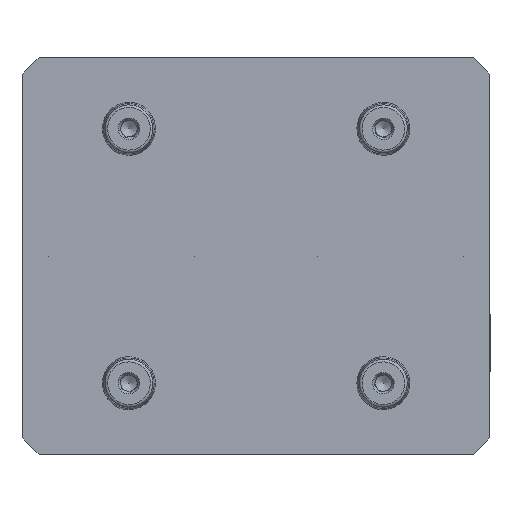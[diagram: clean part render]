
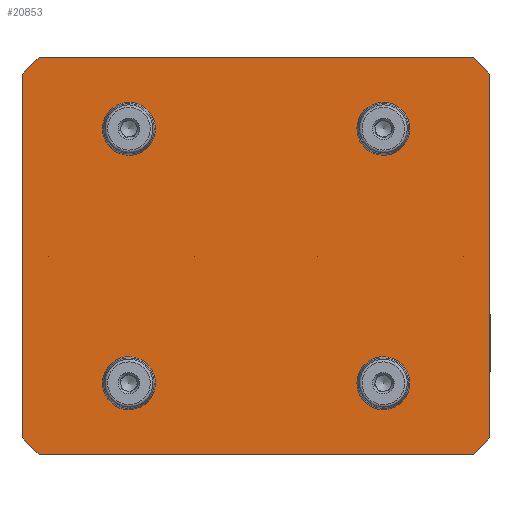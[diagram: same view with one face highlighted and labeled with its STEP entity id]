
A CAD part, front view. The second image highlights one B-rep face of the part: STEP entity #20853.
In plain terms, the highlighted planar face has unit normal (0, -1, 0).
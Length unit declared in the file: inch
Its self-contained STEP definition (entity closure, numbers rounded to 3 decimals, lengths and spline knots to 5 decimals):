
#448 = CARTESIAN_POINT ( 'NONE',  ( 3.22441, 0., -2.95276 ) ) ;
#538 = DIRECTION ( 'NONE',  ( 0., -1., 0. ) ) ;
#612 = CARTESIAN_POINT ( 'NONE',  ( 1.88976, 0., 1.88976 ) ) ;
#672 = CARTESIAN_POINT ( 'NONE',  ( 3.47441, 0., -2.95276 ) ) ;
#686 = EDGE_CURVE ( 'NONE', #4936, #4936, #19932, .T. ) ;
#717 = VERTEX_POINT ( 'NONE', #2476 ) ;
#870 = ORIENTED_EDGE ( 'NONE', *, *, #686, .F. ) ;
#1003 = VECTOR ( 'NONE', #19702, 39.37008 ) ;
#1270 = CARTESIAN_POINT ( 'NONE',  ( -3.47441, 0., -2.70276 ) ) ;
#1676 = ORIENTED_EDGE ( 'NONE', *, *, #6850, .F. ) ;
#1718 = LINE ( 'NONE', #8030, #1003 ) ;
#1774 = DIRECTION ( 'NONE',  ( 0., 0., -1. ) ) ;
#1877 = EDGE_CURVE ( 'NONE', #7570, #5845, #13963, .T. ) ;
#1937 = VECTOR ( 'NONE', #13572, 39.37008 ) ;
#2000 = VECTOR ( 'NONE', #15264, 39.37008 ) ;
#2476 = CARTESIAN_POINT ( 'NONE',  ( -1.88976, 0., 1.57441 ) ) ;
#2596 = DIRECTION ( 'NONE',  ( 1., 0., 0. ) ) ;
#2733 = DIRECTION ( 'NONE',  ( 0., 0., 1. ) ) ;
#3187 = LINE ( 'NONE', #1270, #10111 ) ;
#3204 = EDGE_CURVE ( 'NONE', #14330, #19286, #20002, .T. ) ;
#3586 = CARTESIAN_POINT ( 'NONE',  ( 3.47441, 0., 2.95276 ) ) ;
#3856 = VERTEX_POINT ( 'NONE', #13979 ) ;
#3971 = VERTEX_POINT ( 'NONE', #8815 ) ;
#4018 = EDGE_LOOP ( 'NONE', ( #1676 ) ) ;
#4185 = CIRCLE ( 'NONE', #11681, 0.31535 ) ;
#4385 = AXIS2_PLACEMENT_3D ( 'NONE', #612, #5761, #10423 ) ;
#4725 = CIRCLE ( 'NONE', #16919, 0.31535 ) ;
#4747 = ORIENTED_EDGE ( 'NONE', *, *, #5269, .F. ) ;
#4778 = EDGE_CURVE ( 'NONE', #19876, #20811, #20306, .T. ) ;
#4849 = DIRECTION ( 'NONE',  ( 0., 0., -1. ) ) ;
#4936 = VERTEX_POINT ( 'NONE', #9782 ) ;
#5080 = CIRCLE ( 'NONE', #9425, 0.31535 ) ;
#5269 = EDGE_CURVE ( 'NONE', #16245, #19286, #13659, .T. ) ;
#5337 = VECTOR ( 'NONE', #2733, 39.37008 ) ;
#5743 = ORIENTED_EDGE ( 'NONE', *, *, #1877, .F. ) ;
#5761 = DIRECTION ( 'NONE',  ( 0., -1., 0. ) ) ;
#5813 = ORIENTED_EDGE ( 'NONE', *, *, #6913, .F. ) ;
#5845 = VERTEX_POINT ( 'NONE', #10534 ) ;
#5970 = FACE_BOUND ( 'NONE', #11390, .T. ) ;
#6456 = EDGE_CURVE ( 'NONE', #7570, #20811, #3187, .T. ) ;
#6850 = EDGE_CURVE ( 'NONE', #717, #717, #5080, .T. ) ;
#6913 = EDGE_CURVE ( 'NONE', #3971, #3971, #4725, .T. ) ;
#7094 = CARTESIAN_POINT ( 'NONE',  ( -1.88976, 0., -2.20511 ) ) ;
#7151 = CARTESIAN_POINT ( 'NONE',  ( 3.47441, 0., 2.95276 ) ) ;
#7157 = ORIENTED_EDGE ( 'NONE', *, *, #20396, .T. ) ;
#7368 = VECTOR ( 'NONE', #19669, 39.37008 ) ;
#7570 = VERTEX_POINT ( 'NONE', #15447 ) ;
#8030 = CARTESIAN_POINT ( 'NONE',  ( -3.22441, 0., 2.95276 ) ) ;
#8286 = CARTESIAN_POINT ( 'NONE',  ( 1.88976, 0., -1.88976 ) ) ;
#8716 = EDGE_LOOP ( 'NONE', ( #870 ) ) ;
#8815 = CARTESIAN_POINT ( 'NONE',  ( 1.88976, 0., -2.20511 ) ) ;
#8982 = VERTEX_POINT ( 'NONE', #7094 ) ;
#9150 = CARTESIAN_POINT ( 'NONE',  ( 3.47441, 0., 2.70276 ) ) ;
#9247 = FACE_BOUND ( 'NONE', #4018, .T. ) ;
#9425 = AXIS2_PLACEMENT_3D ( 'NONE', #12924, #19335, #4849 ) ;
#9711 = EDGE_CURVE ( 'NONE', #14330, #3856, #19553, .T. ) ;
#9782 = CARTESIAN_POINT ( 'NONE',  ( 1.88976, 0., 1.57441 ) ) ;
#10111 = VECTOR ( 'NONE', #16091, 39.37008 ) ;
#10266 = EDGE_CURVE ( 'NONE', #16245, #5845, #1718, .T. ) ;
#10366 = CARTESIAN_POINT ( 'NONE',  ( 3.47441, 0., 2.70276 ) ) ;
#10423 = DIRECTION ( 'NONE',  ( 0., 0., -1. ) ) ;
#10534 = CARTESIAN_POINT ( 'NONE',  ( -3.47441, 0., 2.70276 ) ) ;
#10667 = DIRECTION ( 'NONE',  ( 0., 1., 0. ) ) ;
#10771 = DIRECTION ( 'NONE',  ( 0., 0., 1. ) ) ;
#10781 = CARTESIAN_POINT ( 'NONE',  ( -3.22441, 0., 2.95276 ) ) ;
#10852 = CARTESIAN_POINT ( 'NONE',  ( 3.22441, 0., -2.95276 ) ) ;
#10884 = FACE_OUTER_BOUND ( 'NONE', #19997, .T. ) ;
#11328 = CARTESIAN_POINT ( 'NONE',  ( -1.88976, 0., -1.88976 ) ) ;
#11390 = EDGE_LOOP ( 'NONE', ( #5813 ) ) ;
#11681 = AXIS2_PLACEMENT_3D ( 'NONE', #11328, #12925, #1774 ) ;
#11922 = ORIENTED_EDGE ( 'NONE', *, *, #9711, .F. ) ;
#12174 = CARTESIAN_POINT ( 'NONE',  ( 0., 0., 0. ) ) ;
#12279 = FACE_BOUND ( 'NONE', #8716, .T. ) ;
#12874 = LINE ( 'NONE', #10852, #14982 ) ;
#12924 = CARTESIAN_POINT ( 'NONE',  ( -1.88976, 0., 1.88976 ) ) ;
#12925 = DIRECTION ( 'NONE',  ( 0., -1., 0. ) ) ;
#13052 = CARTESIAN_POINT ( 'NONE',  ( -3.22441, 0., -2.95276 ) ) ;
#13236 = DIRECTION ( 'NONE',  ( 0., 0., -1. ) ) ;
#13304 = CARTESIAN_POINT ( 'NONE',  ( 3.22441, 0., 2.95276 ) ) ;
#13572 = DIRECTION ( 'NONE',  ( -1., 0., 0. ) ) ;
#13659 = LINE ( 'NONE', #7151, #14493 ) ;
#13704 = EDGE_CURVE ( 'NONE', #8982, #8982, #4185, .T. ) ;
#13963 = LINE ( 'NONE', #17247, #5337 ) ;
#13979 = CARTESIAN_POINT ( 'NONE',  ( 3.47441, 0., -2.70276 ) ) ;
#14057 = ORIENTED_EDGE ( 'NONE', *, *, #4778, .F. ) ;
#14330 = VERTEX_POINT ( 'NONE', #9150 ) ;
#14493 = VECTOR ( 'NONE', #2596, 39.37008 ) ;
#14741 = ORIENTED_EDGE ( 'NONE', *, *, #6456, .T. ) ;
#14982 = VECTOR ( 'NONE', #15923, 39.37008 ) ;
#15264 = DIRECTION ( 'NONE',  ( -0.707, 0., 0.707 ) ) ;
#15447 = CARTESIAN_POINT ( 'NONE',  ( -3.47441, 0., -2.70276 ) ) ;
#15923 = DIRECTION ( 'NONE',  ( 0.707, 0., 0.707 ) ) ;
#16091 = DIRECTION ( 'NONE',  ( 0.707, 0., -0.707 ) ) ;
#16245 = VERTEX_POINT ( 'NONE', #10781 ) ;
#16919 = AXIS2_PLACEMENT_3D ( 'NONE', #8286, #538, #13236 ) ;
#17051 = ORIENTED_EDGE ( 'NONE', *, *, #13704, .F. ) ;
#17247 = CARTESIAN_POINT ( 'NONE',  ( -3.47441, 0., 2.95276 ) ) ;
#18479 = FACE_BOUND ( 'NONE', #19687, .T. ) ;
#18602 = ORIENTED_EDGE ( 'NONE', *, *, #3204, .T. ) ;
#18700 = PLANE ( 'NONE',  #19709 ) ;
#19286 = VERTEX_POINT ( 'NONE', #13304 ) ;
#19335 = DIRECTION ( 'NONE',  ( 0., -1., 0. ) ) ;
#19553 = LINE ( 'NONE', #3586, #7368 ) ;
#19669 = DIRECTION ( 'NONE',  ( 0., 0., -1. ) ) ;
#19687 = EDGE_LOOP ( 'NONE', ( #17051 ) ) ;
#19702 = DIRECTION ( 'NONE',  ( -0.707, 0., -0.707 ) ) ;
#19709 = AXIS2_PLACEMENT_3D ( 'NONE', #12174, #10667, #10771 ) ;
#19876 = VERTEX_POINT ( 'NONE', #448 ) ;
#19932 = CIRCLE ( 'NONE', #4385, 0.31535 ) ;
#19946 = ORIENTED_EDGE ( 'NONE', *, *, #10266, .T. ) ;
#19997 = EDGE_LOOP ( 'NONE', ( #5743, #14741, #14057, #7157, #11922, #18602, #4747, #19946 ) ) ;
#20002 = LINE ( 'NONE', #10366, #2000 ) ;
#20306 = LINE ( 'NONE', #672, #1937 ) ;
#20396 = EDGE_CURVE ( 'NONE', #19876, #3856, #12874, .T. ) ;
#20811 = VERTEX_POINT ( 'NONE', #13052 ) ;
#20853 = ADVANCED_FACE ( 'NONE', ( #9247, #18479, #5970, #12279, #10884 ), #18700, .F. ) ;
